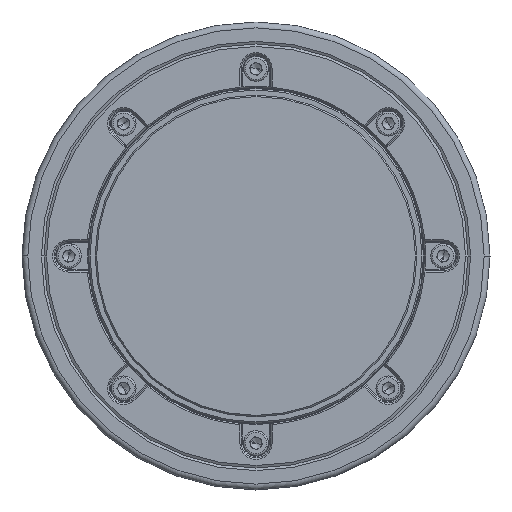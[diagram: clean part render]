
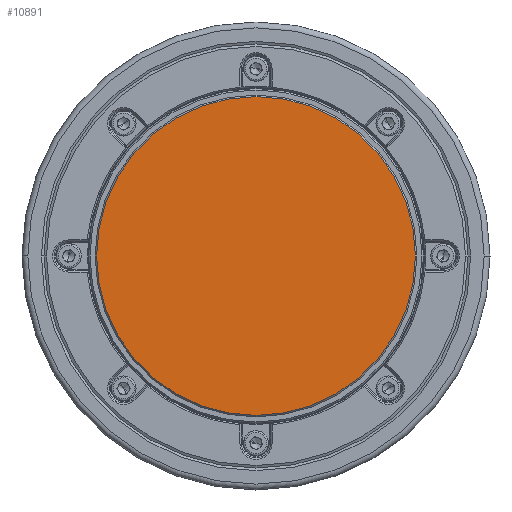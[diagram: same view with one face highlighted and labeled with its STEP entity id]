
A CAD part, left-side view. The second image highlights one B-rep face of the part: STEP entity #10891.
In plain terms, the highlighted planar face has unit normal (-1, 0, 0).
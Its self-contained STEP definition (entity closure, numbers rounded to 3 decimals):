
#8443=CARTESIAN_POINT('',(0.,0.,0.));
#8444=DIRECTION('',(-1.,0.,0.));
#8445=DIRECTION('',(0.,0.,1.));
#8446=AXIS2_PLACEMENT_3D('',#8443,#8444,#8445);
#8448=CARTESIAN_POINT('',(0.,0.,0.));
#8449=DIRECTION('',(-1.,0.,0.));
#8450=DIRECTION('',(0.,0.,-1.));
#8451=AXIS2_PLACEMENT_3D('',#8448,#8449,#8450);
#9177=CARTESIAN_POINT('',(0.,0.,54.5));
#9179=VERTEX_POINT('',#9177);
#9439=CARTESIAN_POINT('',(0.,0.,-54.5));
#9441=VERTEX_POINT('',#9439);
#10881=CARTESIAN_POINT('',(0.,0.,0.));
#10882=DIRECTION('',(-1.,0.,0.));
#10883=DIRECTION('',(0.,0.,1.));
#10884=AXIS2_PLACEMENT_3D('',#10881,#10882,#10883);
#10885=PLANE('',#10884);
#10886=ORIENTED_EDGE('',*,*,#10871,.F.);
#10888=ORIENTED_EDGE('',*,*,#10887,.F.);
#10889=EDGE_LOOP('',(#10886,#10888));
#10890=FACE_OUTER_BOUND('',#10889,.F.);
#10891=ADVANCED_FACE('',(#10890),#10885,.T.);
#8447=CIRCLE('',#8446,54.5);
#8452=CIRCLE('',#8451,54.5);
#10871=EDGE_CURVE('',#9179,#9441,#8447,.T.);
#10887=EDGE_CURVE('',#9441,#9179,#8452,.T.);
